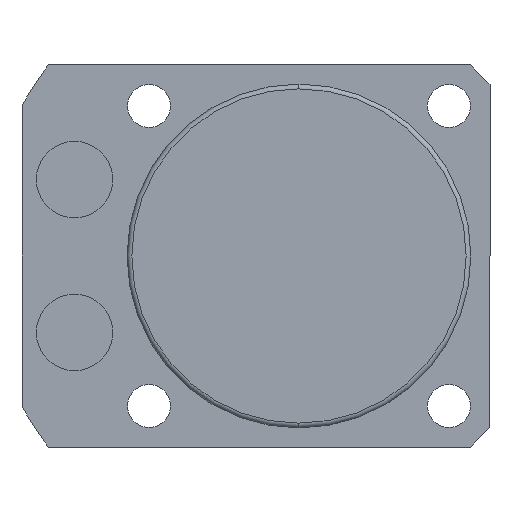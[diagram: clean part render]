
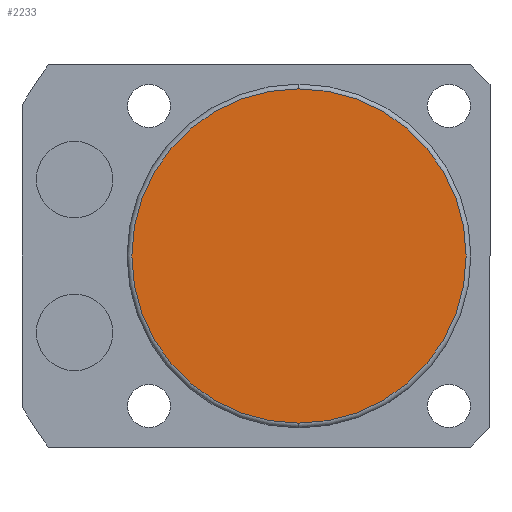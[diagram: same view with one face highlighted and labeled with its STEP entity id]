
A CAD part, front view. The second image highlights one B-rep face of the part: STEP entity #2233.
In plain terms, the highlighted planar face has unit normal (0, -1, 0).
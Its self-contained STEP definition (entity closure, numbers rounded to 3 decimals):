
#69 = DIRECTION ( 'NONE',  ( 0., -1., 0. ) ) ;
#103 = EDGE_LOOP ( 'NONE', ( #1469, #1934 ) ) ;
#198 = DIRECTION ( 'NONE',  ( 0., 0., -1. ) ) ;
#226 = VERTEX_POINT ( 'NONE', #2253 ) ;
#426 = FACE_OUTER_BOUND ( 'NONE', #103, .T. ) ;
#556 = CIRCLE ( 'NONE', #1425, 17.5 ) ;
#726 = EDGE_CURVE ( 'NONE', #226, #2191, #556, .T. ) ;
#749 = PLANE ( 'NONE',  #924 ) ;
#856 = DIRECTION ( 'NONE',  ( 0., 0., -1. ) ) ;
#921 = EDGE_CURVE ( 'NONE', #2191, #226, #1432, .T. ) ;
#924 = AXIS2_PLACEMENT_3D ( 'NONE', #1620, #2198, #198 ) ;
#1168 = CARTESIAN_POINT ( 'NONE',  ( 0., -90.5, 0. ) ) ;
#1259 = AXIS2_PLACEMENT_3D ( 'NONE', #1392, #1584, #856 ) ;
#1314 = DIRECTION ( 'NONE',  ( 0., 0., -1. ) ) ;
#1392 = CARTESIAN_POINT ( 'NONE',  ( 0., -90.5, 0. ) ) ;
#1425 = AXIS2_PLACEMENT_3D ( 'NONE', #1168, #69, #1314 ) ;
#1432 = CIRCLE ( 'NONE', #1259, 17.5 ) ;
#1469 = ORIENTED_EDGE ( 'NONE', *, *, #921, .T. ) ;
#1579 = CARTESIAN_POINT ( 'NONE',  ( 0., -90.5, -17.5 ) ) ;
#1584 = DIRECTION ( 'NONE',  ( 0., -1., 0. ) ) ;
#1620 = CARTESIAN_POINT ( 'NONE',  ( 0., -90.5, 0. ) ) ;
#1934 = ORIENTED_EDGE ( 'NONE', *, *, #726, .T. ) ;
#2191 = VERTEX_POINT ( 'NONE', #1579 ) ;
#2198 = DIRECTION ( 'NONE',  ( 0., -1., 0. ) ) ;
#2233 = ADVANCED_FACE ( 'NONE', ( #426 ), #749, .T. ) ;
#2253 = CARTESIAN_POINT ( 'NONE',  ( 0., -90.5, 17.5 ) ) ;
